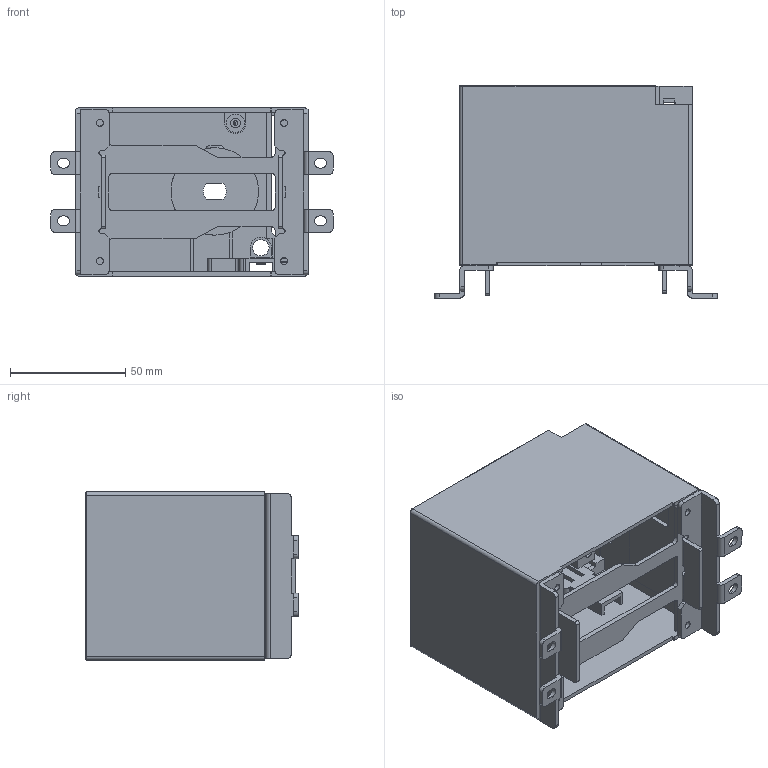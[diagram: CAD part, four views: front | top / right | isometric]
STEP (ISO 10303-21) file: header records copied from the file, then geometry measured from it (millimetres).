
FILE_DESCRIPTION (( 'STEP AP214' ), '1' );
FILE_NAME ('µç²ÙTGM1N-63ZPT.STEP', '2023-08-10T06:31:06', ( 'Micorosoft' ), ( 'Micorosoft' ), 'SwSTEP 2.0', 'SolidWorks 2016', '' );
FILE_SCHEMA (( 'AUTOMOTIVE_DESIGN' ));
Length unit declared in the file: millimetre
Products named in the file (7): TGM1N-63軞盓殤; 迕諶偌聽; 伎攫; 錨璃1; 萇儂63褲极; TGM1N-63褐殤ヶ綴眈肮; 萇紱TGM1N-63ZPT
Assembly tree (6 placements, depth 2):
  萇紱TGM1N-63ZPT
    TGM1N-63褐殤ヶ綴眈肮
    萇儂63褲极
    錨璃1
    伎攫
    迕諶偌聽
    TGM1N-63軞盓殤
Bounding box: 122.6 x 92.1 x 73 mm (x, y, z)
Volume: 81013.6 mm3; surface area: 95340 mm2
Topology: 6 solids, 6 shells, 1169 faces, 3358 edges, 2229 vertices
Faces by surface type: plane 704, bspline 263, cylinder 187, cone 8, torus 7
Entity records: 49332 total; most frequent: CARTESIAN_POINT 19763, ORIENTED_EDGE 6716, DIRECTION 5033, EDGE_CURVE 3358, LINE 2415, VECTOR 2415, VERTEX_POINT 2229, AXIS2_PLACEMENT_3D 1309
